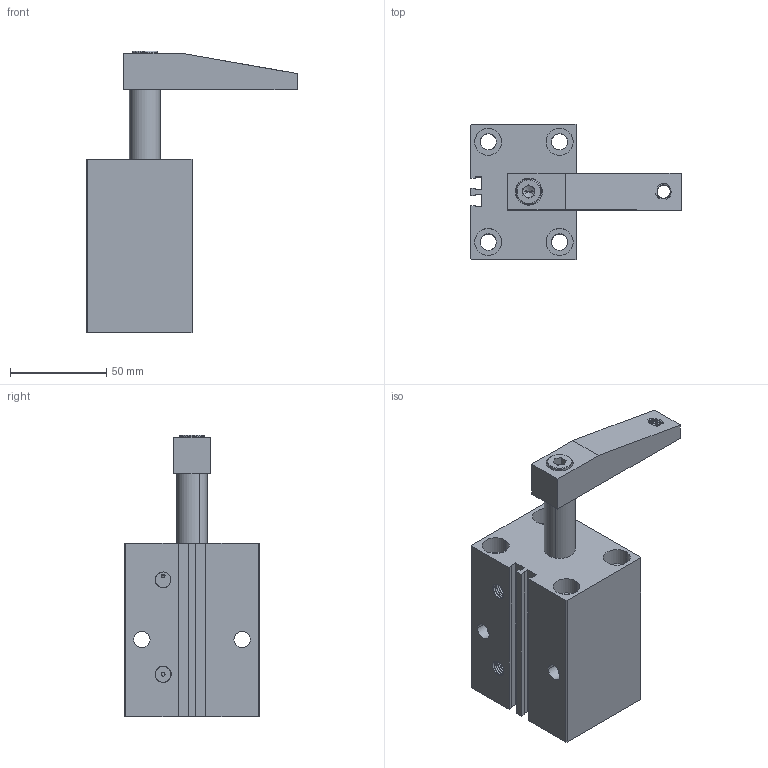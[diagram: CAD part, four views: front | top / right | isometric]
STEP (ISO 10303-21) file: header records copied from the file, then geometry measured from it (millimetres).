
FILE_DESCRIPTION (( 'STEP AP203' ), '1' );
FILE_NAME ('PSB-40.STEP', '2013-10-08T09:22:16', ( '微软用户' ), ( '微软中国' ), 'SwSTEP 2.0', 'SolidWorks 2012', '' );
FILE_SCHEMA (( 'CONFIG_CONTROL_DESIGN' ));
Length unit declared in the file: millimetre
Products named in the file (6): PSB-40; socket head cap screw_iso_ISO 4762 M8 x 25 --- 25S; PSB40HG; PSB40YB; PSB40HSG; PSB40BT
Assembly tree (5 placements, depth 2):
  PSB-40
    PSB40BT
    PSB40HSG
    PSB40YB
    PSB40HG
    socket head cap screw_iso_ISO 4762 M8 x 25 --- 25S
Bounding box: 109 x 70 x 146 mm (x, y, z)
Volume: 291057.4 mm3; surface area: 86776.4 mm2
Topology: 5 solids, 5 shells, 495 faces, 1310 edges, 837 vertices
Faces by surface type: cylinder 284, cone 86, plane 82, torus 24, bspline 19
Entity records: 27036 total; most frequent: CARTESIAN_POINT 15087, ORIENTED_EDGE 2608, DIRECTION 2234, EDGE_CURVE 1304, AXIS2_PLACEMENT_3D 868, VERTEX_POINT 837, EDGE_LOOP 543, LINE 498
